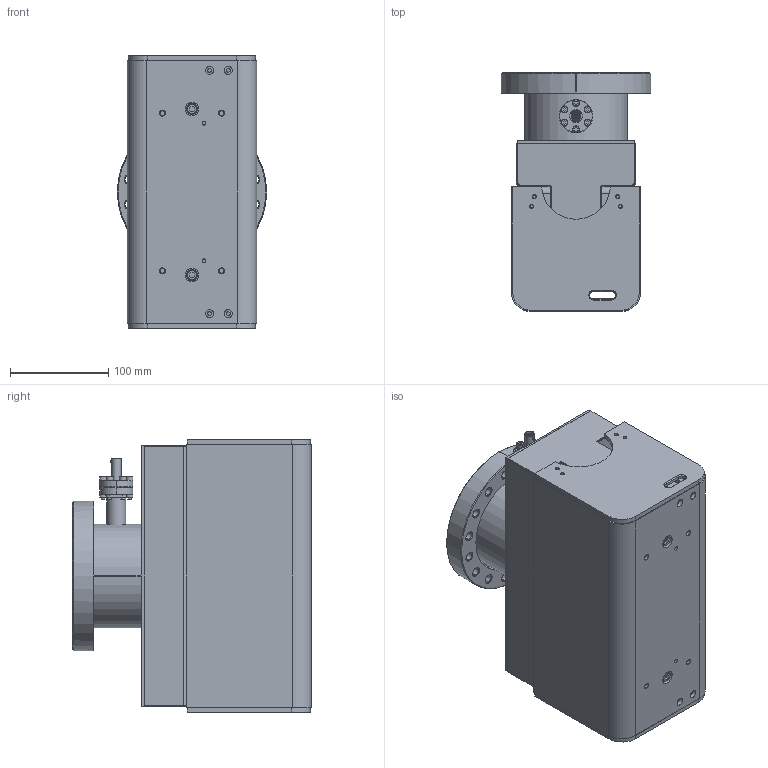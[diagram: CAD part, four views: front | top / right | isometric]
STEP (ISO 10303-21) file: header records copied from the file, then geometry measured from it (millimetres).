
FILE_DESCRIPTION((''),'2;1');
FILE_NAME('75S-XX-6S-XX','2020-12-02T14:40:40',('langebj'),('Gamma Vacuum, LLC'),'CREO PARAMETRIC BY PTC INC, 2020044','CREO PARAMETRIC BY PTC INC, 2020044','');
FILE_SCHEMA(('AUTOMOTIVE_DESIGN { 1 0 10303 214 1 1 1 1 }'));
Products named in the file (1): 75S-XX-6S-XX
Bounding box: 151.64 x 242 x 276.65 mm (x, y, z)
Surface area: 704589.5 mm2 (no closed solid volume)
Topology: 0 solids, 0 shells, 1110 faces, 5636 edges, 5602 vertices
Faces by surface type: cylinder 457, plane 403, cone 202, torus 44, bspline 2, sphere 2
Entity records: 82900 total; most frequent: CARTESIAN_POINT 20426, DIRECTION 10742, TRIMMED_CURVE 7194, VECTOR 5879, LINE 5879, DEFINITIONAL_REPRESENTATION 5570, PCURVE 5570, COMPOSITE_CURVE_SEGMENT 5570
